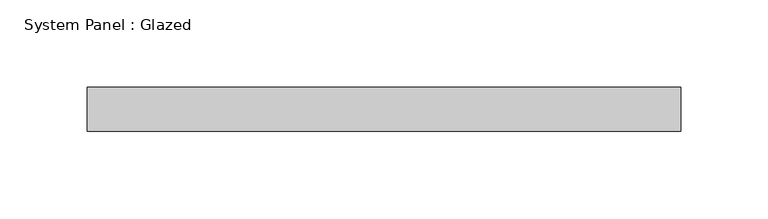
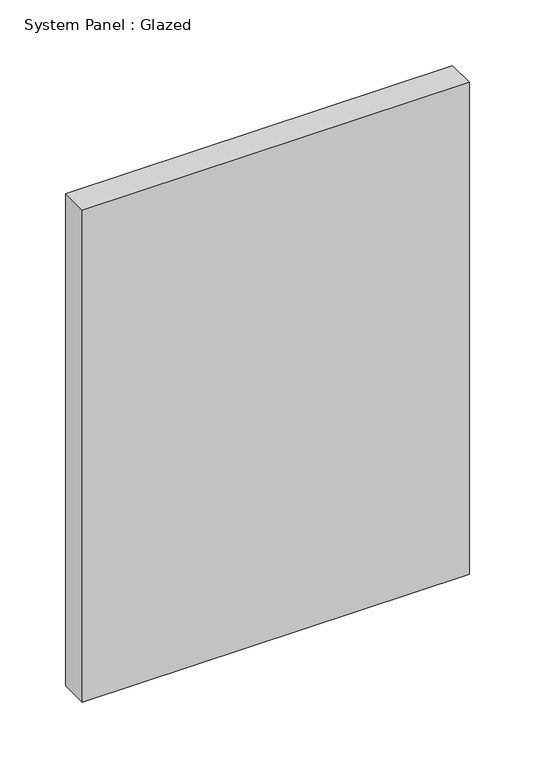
"""IFC4 building model written with IfcOpenShell, lengths in millimetres: plate geometry, System Panel : Glazed."""

from ifc_helpers import new_model, si_unit, origin, origin_with_axes, place, context, project, spatial, polyline, outline, extrude, source, transform, mapped, element, save


def system_panel_glazed_1edc1c27(model_context):
    return source(origin(), model_context, "Body", "SweptSolid", [
        extrude(outline(polyline([(170.2561998, -44.45), (-170.2561998, -44.45), (-170.2561998, -19.05), (170.2561998, -19.05), (170.2561998, -44.45)])), origin_with_axes(), (0.0, 0.0, 1.0), 457.2),
    ])


if __name__ == "__main__":
    model = new_model("IFC4")
    model_context = context("Model", 3, world=origin())
    ifc_project = project(units=[si_unit("LENGTHUNIT", "METRE", prefix="MILLI")], contexts=[model_context])
    site = spatial("IfcSite", under=ifc_project)
    building = spatial("IfcBuilding", under=site)
    placement = place(None, origin())
    system_panel_glazed_shape = system_panel_glazed_1edc1c27(model_context)
    element("IfcPlate", 1, ObjectType="System Panel : Glazed", at=placement, inside=building, context=model_context, shape_type="MappedRepresentation", body=[
        mapped(system_panel_glazed_shape, transform((0.0, 0.0, 0.0), x_axis=(1.0, 0.0, 0.0), y_axis=(0.0, 1.0, 0.0), z_axis=(0.0, 0.0, 1.0))),
    ])
    save(model, "model.ifc")
